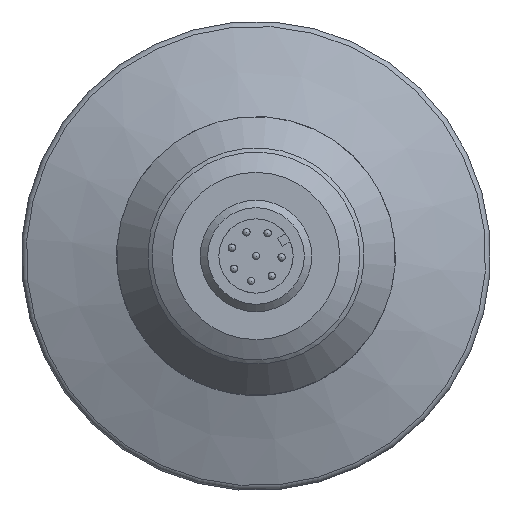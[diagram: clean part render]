
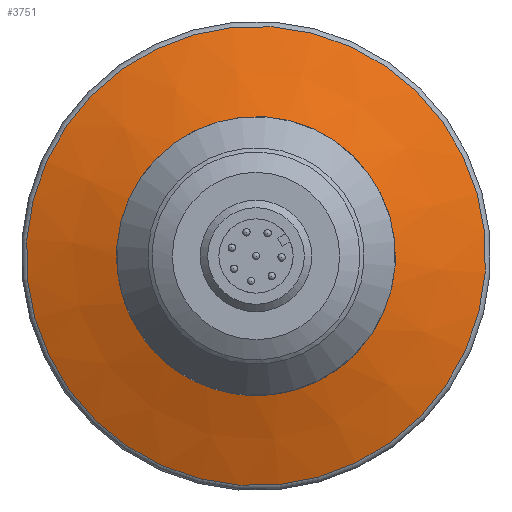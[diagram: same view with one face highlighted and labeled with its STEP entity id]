
A CAD part, front view. The second image highlights one B-rep face of the part: STEP entity #3751.
In plain terms, the highlighted conical face has half-angle 70 degrees and reference radius 24.724 mm.
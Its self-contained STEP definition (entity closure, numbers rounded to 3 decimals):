
#605=CONICAL_SURFACE('',#3939,24.724,1.222);
#635=ORIENTED_EDGE('',*,*,#1366,.F.);
#636=ORIENTED_EDGE('',*,*,#1365,.F.);
#1365=EDGE_CURVE('',#1735,#1735,#1998,.T.);
#1366=EDGE_CURVE('',#1736,#1736,#1999,.F.);
#1735=VERTEX_POINT('',#4600);
#1736=VERTEX_POINT('',#4603);
#1998=CIRCLE('',#3938,24.724);
#1999=CIRCLE('',#3940,15.);
#2075=EDGE_LOOP('',(#635));
#2076=EDGE_LOOP('',(#636));
#2310=FACE_BOUND('',#2075,.T.);
#2311=FACE_BOUND('',#2076,.T.);
#3751=ADVANCED_FACE('',(#2310,#2311),#605,.T.);
#3938=AXIS2_PLACEMENT_3D('',#4599,#4134,#4135);
#3939=AXIS2_PLACEMENT_3D('',#4601,#4136,#4137);
#3940=AXIS2_PLACEMENT_3D('',#4602,#4138,#4139);
#4134=DIRECTION('',(0.,1.,0.));
#4135=DIRECTION('',(-0.997,0.,0.074));
#4136=DIRECTION('',(0.,1.,0.));
#4137=DIRECTION('',(-0.997,0.,0.074));
#4138=DIRECTION('',(0.,1.,0.));
#4139=DIRECTION('',(-1.,0.,0.));
#4599=CARTESIAN_POINT('',(0.,1.903,0.));
#4600=CARTESIAN_POINT('',(-24.656,1.903,1.83));
#4601=CARTESIAN_POINT('',(0.,1.903,0.));
#4602=CARTESIAN_POINT('',(0.,-1.636,0.));
#4603=CARTESIAN_POINT('',(-15.,-1.636,0.));
